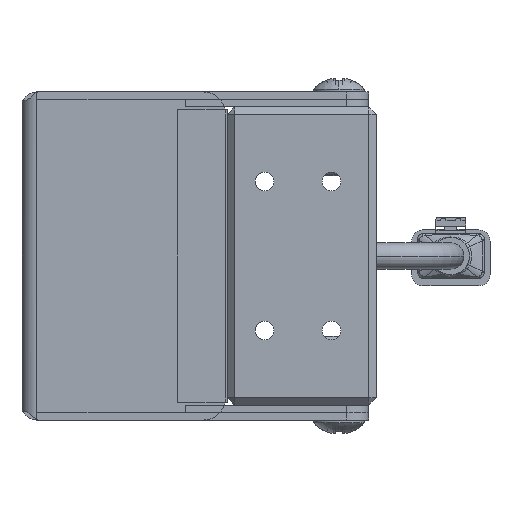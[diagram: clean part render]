
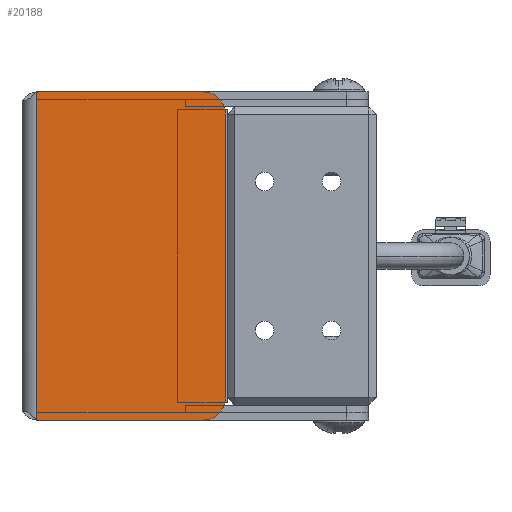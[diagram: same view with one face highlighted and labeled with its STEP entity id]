
A CAD part, left-side view. The second image highlights one B-rep face of the part: STEP entity #20188.
In plain terms, the highlighted planar face has unit normal (-1, 0, 0).
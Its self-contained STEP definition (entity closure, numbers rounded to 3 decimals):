
#333 = CARTESIAN_POINT ( 'NONE',  ( -112.5, 45.5, -21.931 ) ) ;
#523 = VERTEX_POINT ( 'NONE', #7246 ) ;
#1128 = VERTEX_POINT ( 'NONE', #18833 ) ;
#1520 = EDGE_CURVE ( 'NONE', #10127, #2263, #7353, .T. ) ;
#1691 = CARTESIAN_POINT ( 'NONE',  ( -112.5, 20.2, 20. ) ) ;
#1850 = ORIENTED_EDGE ( 'NONE', *, *, #9993, .T. ) ;
#2105 = DIRECTION ( 'NONE',  ( -1., 0., 0. ) ) ;
#2263 = VERTEX_POINT ( 'NONE', #20088 ) ;
#2673 = FACE_OUTER_BOUND ( 'NONE', #13018, .T. ) ;
#2776 = ORIENTED_EDGE ( 'NONE', *, *, #13503, .F. ) ;
#3275 = CARTESIAN_POINT ( 'NONE',  ( -112.5, 45.5, 22. ) ) ;
#3844 = ORIENTED_EDGE ( 'NONE', *, *, #12447, .T. ) ;
#3940 = ORIENTED_EDGE ( 'NONE', *, *, #20571, .F. ) ;
#4169 = DIRECTION ( 'NONE',  ( -1., 0., 0. ) ) ;
#4970 = ORIENTED_EDGE ( 'NONE', *, *, #10654, .T. ) ;
#4982 = LINE ( 'NONE', #20049, #7491 ) ;
#5797 = CARTESIAN_POINT ( 'NONE',  ( -112.5, 45.1, -20.8 ) ) ;
#6562 = DIRECTION ( 'NONE',  ( 0., 0., 1. ) ) ;
#6599 = VECTOR ( 'NONE', #19256, 1000. ) ;
#6960 = AXIS2_PLACEMENT_3D ( 'NONE', #5797, #18633, #10606 ) ;
#7246 = CARTESIAN_POINT ( 'NONE',  ( -112.5, 45.1, -22. ) ) ;
#7353 = CIRCLE ( 'NONE', #12855, 1.2 ) ;
#7372 = VERTEX_POINT ( 'NONE', #12179 ) ;
#7377 = ORIENTED_EDGE ( 'NONE', *, *, #9170, .T. ) ;
#7491 = VECTOR ( 'NONE', #18425, 1000. ) ;
#8227 = CARTESIAN_POINT ( 'NONE',  ( -112.5, 23.2, -19. ) ) ;
#8283 = DIRECTION ( 'NONE',  ( -1., 0., 0. ) ) ;
#8340 = CARTESIAN_POINT ( 'NONE',  ( -112.5, 20.2, 20. ) ) ;
#8891 = CIRCLE ( 'NONE', #16619, 3. ) ;
#9075 = CARTESIAN_POINT ( 'NONE',  ( -112.5, 23.2, 19. ) ) ;
#9170 = EDGE_CURVE ( 'NONE', #1128, #13758, #8891, .T. ) ;
#9694 = VECTOR ( 'NONE', #11778, 1000. ) ;
#9943 = DIRECTION ( 'NONE',  ( 0., 1., 0. ) ) ;
#9993 = EDGE_CURVE ( 'NONE', #17170, #7372, #17190, .T. ) ;
#10127 = VERTEX_POINT ( 'NONE', #12778 ) ;
#10170 = LINE ( 'NONE', #8340, #9694 ) ;
#10606 = DIRECTION ( 'NONE',  ( 0., 1., 0. ) ) ;
#10654 = EDGE_CURVE ( 'NONE', #7372, #10127, #16153, .T. ) ;
#11038 = DIRECTION ( 'NONE',  ( 0., 1., 0. ) ) ;
#11662 = DIRECTION ( 'NONE',  ( 0., -1., 0. ) ) ;
#11778 = DIRECTION ( 'NONE',  ( 0., 0., -1. ) ) ;
#12179 = CARTESIAN_POINT ( 'NONE',  ( -112.5, 23.2, 22. ) ) ;
#12385 = EDGE_CURVE ( 'NONE', #523, #1128, #4982, .T. ) ;
#12447 = EDGE_CURVE ( 'NONE', #17968, #523, #19793, .T. ) ;
#12695 = AXIS2_PLACEMENT_3D ( 'NONE', #9075, #4169, #18618 ) ;
#12778 = CARTESIAN_POINT ( 'NONE',  ( -112.5, 45.1, 22. ) ) ;
#12855 = AXIS2_PLACEMENT_3D ( 'NONE', #13297, #8283, #11662 ) ;
#12950 = DIRECTION ( 'NONE',  ( 1., 0., 0. ) ) ;
#13018 = EDGE_LOOP ( 'NONE', ( #2776, #1850, #4970, #16814, #3940, #3844, #14244, #7377 ) ) ;
#13127 = AXIS2_PLACEMENT_3D ( 'NONE', #1691, #12950, #11038 ) ;
#13297 = CARTESIAN_POINT ( 'NONE',  ( -112.5, 45.1, 20.8 ) ) ;
#13503 = EDGE_CURVE ( 'NONE', #17170, #13758, #10170, .T. ) ;
#13758 = VERTEX_POINT ( 'NONE', #15958 ) ;
#14244 = ORIENTED_EDGE ( 'NONE', *, *, #12385, .T. ) ;
#14703 = VECTOR ( 'NONE', #6562, 1000. ) ;
#15958 = CARTESIAN_POINT ( 'NONE',  ( -112.5, 20.2, -19. ) ) ;
#16153 = LINE ( 'NONE', #3275, #6599 ) ;
#16619 = AXIS2_PLACEMENT_3D ( 'NONE', #8227, #2105, #9943 ) ;
#16814 = ORIENTED_EDGE ( 'NONE', *, *, #1520, .T. ) ;
#17170 = VERTEX_POINT ( 'NONE', #17490 ) ;
#17190 = CIRCLE ( 'NONE', #12695, 3. ) ;
#17490 = CARTESIAN_POINT ( 'NONE',  ( -112.5, 20.2, 19. ) ) ;
#17968 = VERTEX_POINT ( 'NONE', #333 ) ;
#18425 = DIRECTION ( 'NONE',  ( 0., -1., 0. ) ) ;
#18618 = DIRECTION ( 'NONE',  ( 0., 1., 0. ) ) ;
#18633 = DIRECTION ( 'NONE',  ( -1., 0., 0. ) ) ;
#18833 = CARTESIAN_POINT ( 'NONE',  ( -112.5, 23.2, -22. ) ) ;
#18981 = LINE ( 'NONE', #19401, #14703 ) ;
#19217 = PLANE ( 'NONE',  #13127 ) ;
#19256 = DIRECTION ( 'NONE',  ( 0., 1., 0. ) ) ;
#19401 = CARTESIAN_POINT ( 'NONE',  ( -112.5, 45.5, 20. ) ) ;
#19793 = CIRCLE ( 'NONE', #6960, 1.2 ) ;
#20049 = CARTESIAN_POINT ( 'NONE',  ( -112.5, 20.2, -22. ) ) ;
#20088 = CARTESIAN_POINT ( 'NONE',  ( -112.5, 45.5, 21.931 ) ) ;
#20188 = ADVANCED_FACE ( 'NONE', ( #2673 ), #19217, .F. ) ;
#20571 = EDGE_CURVE ( 'NONE', #17968, #2263, #18981, .T. ) ;
